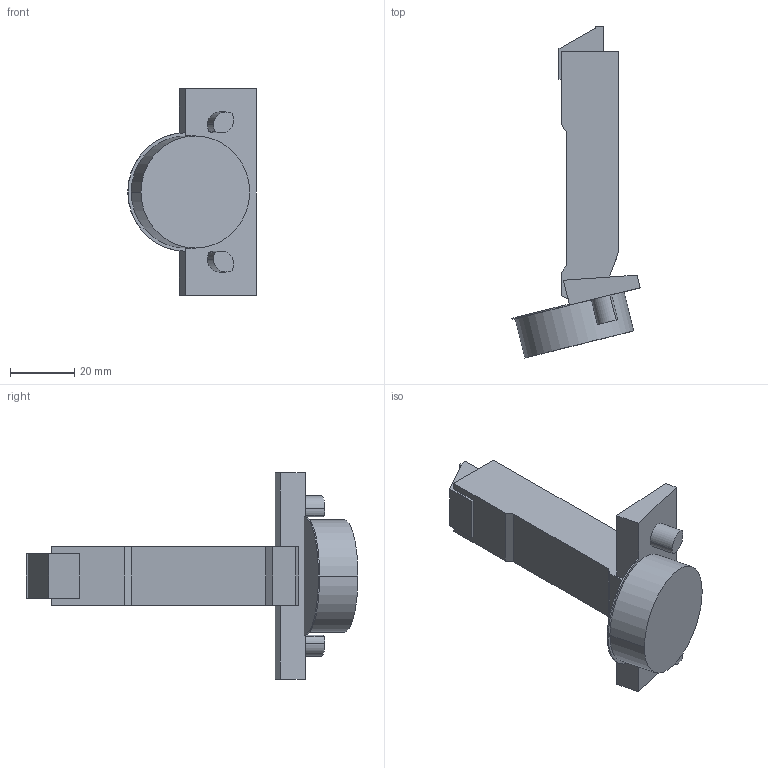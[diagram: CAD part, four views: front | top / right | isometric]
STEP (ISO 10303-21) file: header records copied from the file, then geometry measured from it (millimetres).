
FILE_DESCRIPTION (( 'STEP AP214' ), '1' );
FILE_NAME ('Scharnier T Impresso 120°_-15° GB_BB, aufliegend - Neu -.step', '2019-09-17T09:44:41', ( '' ), ( '' ), 'SwSTEP 2.0', 'SolidWorks 2019', '' );
FILE_SCHEMA (( 'AUTOMOTIVE_DESIGN' ));
Length unit declared in the file: millimetre
Products named in the file (1): Scharnier T Impresso 120°_-15° GB_BB, aufliegend - Neu -
Bounding box: 40.12 x 103.72 x 64.5 mm (x, y, z)
Volume: 44319.9 mm3; surface area: 12290.2 mm2
Topology: 1 solids, 1 shells, 50 faces, 126 edges, 84 vertices
Faces by surface type: plane 35, cylinder 15
Entity records: 1534 total; most frequent: CARTESIAN_POINT 261, DIRECTION 258, ORIENTED_EDGE 252, EDGE_CURVE 126, VECTOR 96, LINE 96, VERTEX_POINT 84, AXIS2_PLACEMENT_3D 81
